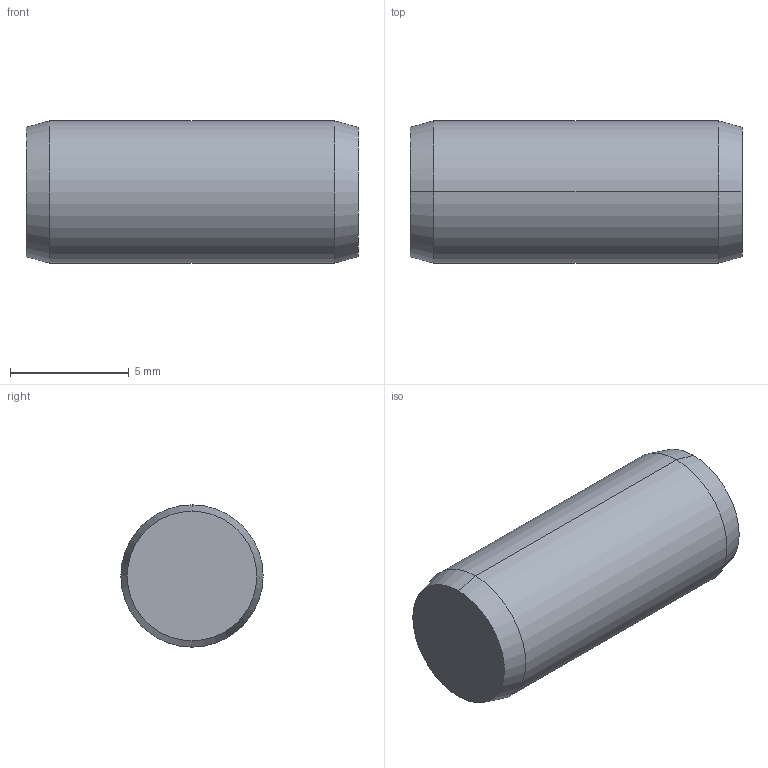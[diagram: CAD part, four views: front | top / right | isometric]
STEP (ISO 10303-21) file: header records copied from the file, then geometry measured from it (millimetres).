
FILE_DESCRIPTION (( 'STEP AP203' ), '1' );
FILE_NAME ('P1206.060-014.step', '2017-06-14T08:19:42', ( 'User' ), ( '' ), 'SwSTEP 2.0', 'SolidWorks 2009', '' );
FILE_SCHEMA (( 'CONFIG_CONTROL_DESIGN' ));
Length unit declared in the file: millimetre
Products named in the file (1): P1206.060-014
Bounding box: 14 x 6 x 6 mm (x, y, z)
Volume: 390.9 mm3; surface area: 310.4 mm2
Topology: 1 solids, 1 shells, 8 faces, 14 edges, 8 vertices
Faces by surface type: cone 4, cylinder 2, plane 2
Entity records: 271 total; most frequent: DIRECTION 40, CARTESIAN_POINT 31, ORIENTED_EDGE 28, AXIS2_PLACEMENT_3D 17, EDGE_CURVE 14, FACE_OUTER_BOUND 8, CIRCLE 8, ADVANCED_FACE 8
